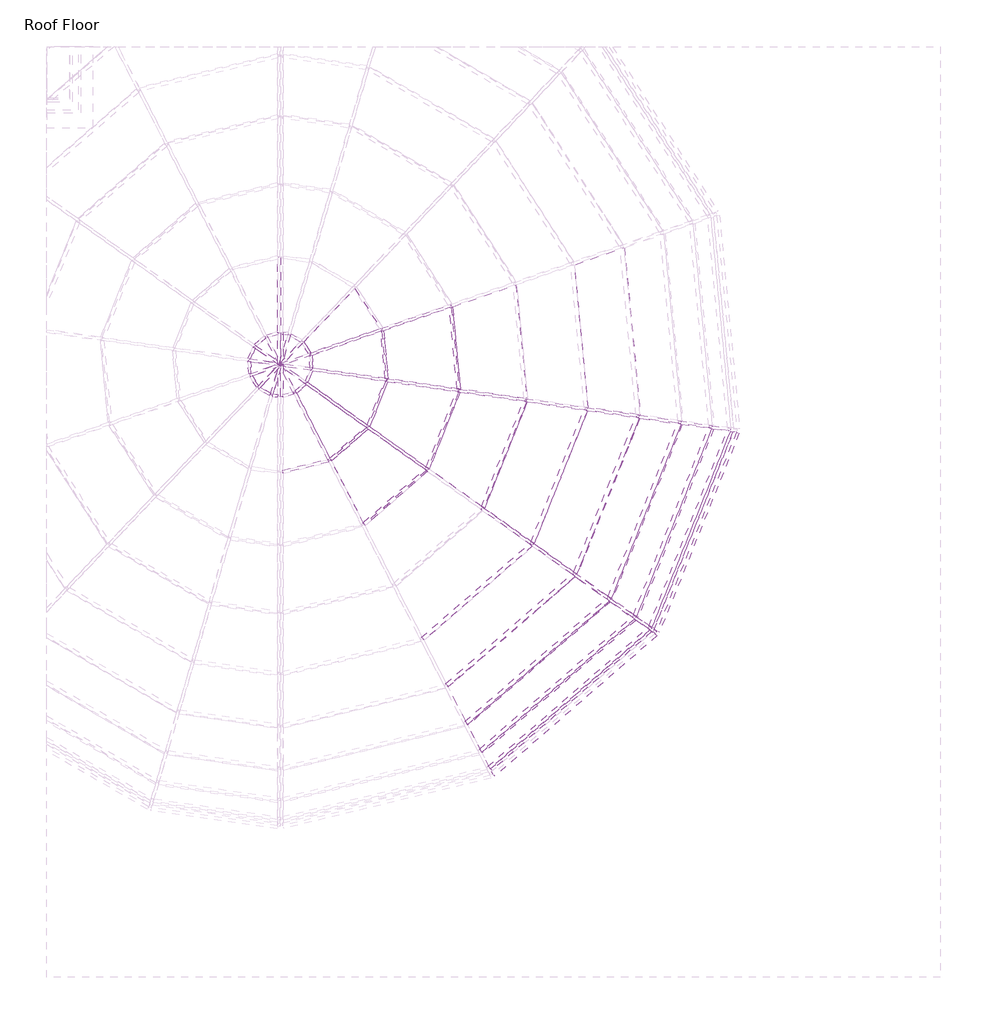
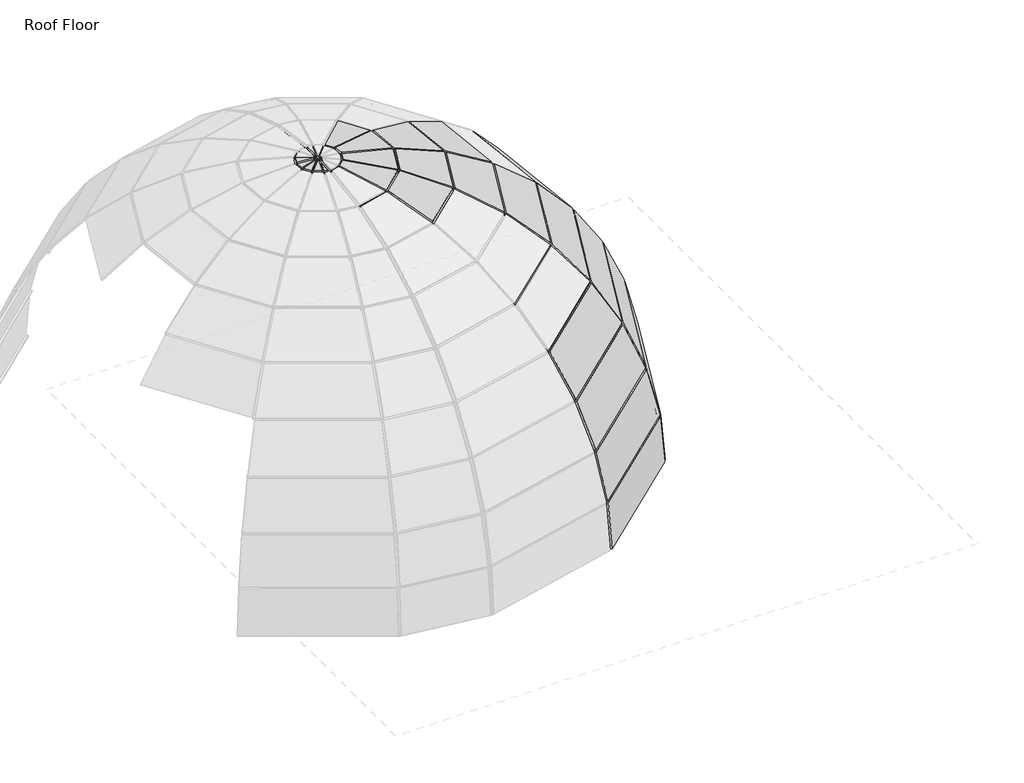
# One storey, part 3 of 5: 68 members, 25 plates.
"""IFC4 building model written with IfcOpenShell, lengths in millimetres."""

from ifc_helpers import new_model, si_unit, origin, place, context, project, spatial, transform, mapped, element, save
from components import member_e5884c93, member_1644e863, member_7f7bd10d, member_27f65fe7, member_ecfbb555, member_3542fcca, member_3534141e, member_2c5cd547, member_c2b6c823, member_dee8aa16, member_df6d12cb, member_6952dcc5, member_16c772f1, member_16816f3b, member_95e271e4, member_8ccf5568, member_1143d828, member_dc070f92, member_d896c3fe, member_fbc4017a, system_panel_glazed_dfb81899, system_panel_glazed_10998a2e, system_panel_glazed_044c179b, system_panel_glazed_0d06b648, system_panel_glazed_0487fba4, system_panel_glazed_bd6fc11e, system_panel_glazed_cc30576f, system_panel_glazed_e8cc6fa0, system_panel_glazed_6841621f, system_panel_glazed_f80f2cad, system_panel_glazed_463f83c8, system_panel_glazed_d9bff1f0, system_panel_glazed_0b4f80da, system_panel_glazed_2c216e95

model = new_model("IFC4")

# Units and contexts
model_context = context("Model", 3, world=origin())
ifc_project = project(units=[si_unit("LENGTHUNIT", "METRE", prefix="MILLI")], contexts=[model_context])

# Site, building, storey
site = spatial("IfcSite", under=ifc_project)
building = spatial("IfcBuilding", under=site)
storey = spatial("IfcBuildingStorey", under=building, Name="Roof Floor", Elevation=15240.0)

# Members
placement = place(None, origin())
member_shape = member_e5884c93(model_context)
element("IfcMember", 1, ObjectType="Rectangular Mullion : 1\" Square", at=placement, inside=storey, context=model_context, shape_type="MappedRepresentation", body=[
    mapped(member_shape, transform((443.8592683, -2777.9023232, 21117.9670279), x_axis=(-0.41239046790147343, 0.4760922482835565, 0.7767047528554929), y_axis=(0.5085307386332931, -0.5870832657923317, 0.6298648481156), z_axis=(0.7558641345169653, 0.6547285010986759, 0.0))),
])
element("IfcMember", 2, ObjectType="Rectangular Mullion : 1\" Square", at=placement, inside=storey, context=model_context, shape_type="MappedRepresentation", body=[
    mapped(member_shape, transform((1078.3289079, -1210.0551724, 21117.9670279), x_axis=(-0.5846780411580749, 0.23426761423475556, 0.7767047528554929), y_axis=(0.7209835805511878, -0.28888224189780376, 0.6298648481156), z_axis=(0.37193314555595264, 0.9282595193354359, 0.0))),
])
member_2_shape = member_1644e863(model_context)
element("IfcMember", 3, ObjectType="Rectangular Mullion : 1\" Square", at=placement, inside=storey, context=model_context, shape_type="MappedRepresentation", body=[
    mapped(member_2_shape, transform((786.0441912, -3021.6914235, 20482.2624164), x_axis=(-0.32116850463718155, 0.370779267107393, 0.8714204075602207), y_axis=(0.5705437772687, -0.6586754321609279, 0.4905369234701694), z_axis=(0.7558641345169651, 0.6547285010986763, 0.0))),
])
element("IfcMember", 4, ObjectType="Rectangular Mullion : 1\" Square", at=placement, inside=storey, context=model_context, shape_type="MappedRepresentation", body=[
    mapped(member_2_shape, transform((1494.1786406, -1269.9938637, 20482.2624164), x_axis=(-0.4553455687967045, 0.1824469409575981, 0.8714204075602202), y_axis=(0.8089042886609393, -0.3241101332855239, 0.49053692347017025), z_axis=(0.3719331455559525, 0.928259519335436, 0.0))),
])
member_3_shape = member_7f7bd10d(model_context)
element("IfcMember", 5, ObjectType="Rectangular Mullion : 1\" Square", at=placement, inside=storey, context=model_context, shape_type="MappedRepresentation", body=[
    mapped(member_3_shape, transform((1200.7999079, -3302.0292875, 19047.3495572), x_axis=(0.5802469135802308, 0.8144406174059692, 0.0), y_axis=(0.7890631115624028, -0.5621667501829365, 0.24768518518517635), z_axis=(0.20172487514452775, -0.1437185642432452, -0.9688405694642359))),
])
element("IfcMember", 6, ObjectType="Rectangular Mullion : 1\" Square", at=placement, inside=storey, context=model_context, shape_type="MappedRepresentation", body=[
    mapped(member_3_shape, transform((1047.085553, -3192.5157415, 19785.6060711), x_axis=(0.5802469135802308, 0.8144406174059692, 0.0), y_axis=(0.744600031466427, -0.5304890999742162, 0.4051568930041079), z_axis=(0.32997623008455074, -0.23509103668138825, -0.9142471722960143))),
])
element("IfcMember", 7, ObjectType="Rectangular Mullion : 1\" Square", at=placement, inside=storey, context=model_context, shape_type="MappedRepresentation", body=[
    mapped(member_3_shape, transform((795.6436657, -3013.3763715, 20482.2624164), x_axis=(0.5802469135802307, 0.8144406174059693, 0.0), y_axis=(0.6794536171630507, -0.48407564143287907, 0.551374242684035), z_axis=(0.4490615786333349, -0.3199332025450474, -0.8342580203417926))),
])
element("IfcMember", 8, ObjectType="Rectangular Mullion : 1\" Square", at=placement, inside=storey, context=model_context, shape_type="MappedRepresentation", body=[
    mapped(member_3_shape, transform((453.4587428, -2769.5872712, 21117.9670279), x_axis=(0.5802469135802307, 0.8144406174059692, 0.0), y_axis=(0.595433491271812, -0.42421563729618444, 0.6822756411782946), z_axis=(0.5556729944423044, -0.3958883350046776, -0.7310950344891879))),
])
element("IfcMember", 9, ObjectType="Rectangular Mullion : 1\" Square", at=placement, inside=storey, context=model_context, shape_type="MappedRepresentation", body=[
    mapped(member_3_shape, transform((30.035921, -2467.9203599, 21675.0614442), x_axis=(0.5802469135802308, 0.814440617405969, 0.0), y_axis=(0.4948735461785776, -0.3525718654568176, 0.7942249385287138), z_axis=(0.6468490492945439, -0.4608465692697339, -0.6076238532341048))),
])
element("IfcMember", 10, ObjectType="Rectangular Mullion : 1\" Square", at=placement, inside=storey, context=model_context, shape_type="MappedRepresentation", body=[
    mapped(member_3_shape, transform((-1011.5465457, -1725.8465996, 22494.1337848), x_axis=(0.5802469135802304, 0.8144406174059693, 0.0), y_axis=(0.25568937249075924, -0.18216548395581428, 0.9494412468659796), z_axis=(0.773263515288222, -0.5509103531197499, -0.313944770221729))),
])
element("IfcMember", 11, ObjectType="Rectangular Mullion : 1\" Square", at=placement, inside=storey, context=model_context, shape_type="MappedRepresentation", body=[
    mapped(member_3_shape, transform((1991.2795692, -1329.1740062, 19047.3495572), x_axis=(0.1426611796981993, 0.989771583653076, 0.0), y_axis=(0.9589308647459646, -0.1382159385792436, 0.24768518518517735), z_axis=(0.24515175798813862, -0.03533506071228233, -0.9688405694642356))),
])
element("IfcMember", 12, ObjectType="Rectangular Mullion : 1\" Square", at=placement, inside=storey, context=model_context, shape_type="MappedRepresentation", body=[
    mapped(member_3_shape, transform((1804.4739296, -1302.24869, 19785.6060711), x_axis=(0.14266117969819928, 0.9897715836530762, 0.0), y_axis=(0.9048958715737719, -0.13042758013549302, 0.40515689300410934), z_axis=(0.4010127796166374, -0.05780016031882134, -0.9142471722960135))),
])
element("IfcMember", 13, ObjectType="Rectangular Mullion : 1\" Square", at=placement, inside=storey, context=model_context, shape_type="MappedRepresentation", body=[
    mapped(member_3_shape, transform((1498.9021915, -1258.2049678, 20482.2624164), x_axis=(0.14266117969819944, 0.9897715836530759, 0.0), y_axis=(0.825724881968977, -0.1190162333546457, 0.5513742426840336), z_axis=(0.5457345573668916, -0.0786596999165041, -0.8342580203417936))),
])
element("IfcMember", 14, ObjectType="Rectangular Mullion : 1\" Square", at=placement, inside=storey, context=model_context, shape_type="MappedRepresentation", body=[
    mapped(member_3_shape, transform((1083.0524588, -1198.2662765, 21117.9670279), x_axis=(0.1426611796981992, 0.9897715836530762, 0.0), y_axis=(0.7236170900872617, -0.10429888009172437, 0.6822756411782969), z_axis=(0.6752970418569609, -0.09733424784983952, -0.731095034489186))),
])
element("IfcMember", 15, ObjectType="Rectangular Mullion : 1\" Square", at=placement, inside=storey, context=model_context, shape_type="MappedRepresentation", body=[
    mapped(member_3_shape, transform((568.4761129, -1124.0975796, 21675.0614442), x_axis=(0.1426611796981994, 0.989771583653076, 0.0), y_axis=(0.6014088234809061, -0.08668433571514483, 0.7942249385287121), z_axis=(0.7861012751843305, -0.11330506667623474, -0.607623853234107))),
])
element("IfcMember", 16, ObjectType="Rectangular Mullion : 1\" Square", at=placement, inside=storey, context=model_context, shape_type="MappedRepresentation", body=[
    mapped(member_3_shape, transform((-30.5330588, -1037.7591188, 22138.0708204), x_axis=(0.14266117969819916, 0.9897715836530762, 0.0), y_axis=(0.4624947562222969, -0.0666618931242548, 0.8841124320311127), z_axis=(0.875069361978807, -0.12612852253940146, -0.4672742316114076))),
])
element("IfcMember", 17, ObjectType="Rectangular Mullion : 1\" Square", at=placement, inside=storey, context=model_context, shape_type="MappedRepresentation", body=[
    mapped(member_3_shape, transform((-697.3359126, -941.6491846, 22494.1337848), x_axis=(0.14266117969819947, 0.989771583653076, 0.0), y_axis=(0.31073361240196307, -0.0447877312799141, 0.9494412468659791), z_axis=(0.9397299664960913, -0.1354484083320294, -0.31394477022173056))),
])
element("IfcMember", 18, ObjectType="Rectangular Mullion : 1\" Square", at=placement, inside=storey, context=model_context, shape_type="MappedRepresentation", body=[
    mapped(member_3_shape, transform((-777.2963246, -100.6377459, 22494.1337848), x_axis=(-0.32662703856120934, 0.9451533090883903, 0.0), y_axis=(0.29672593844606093, 0.10254285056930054, 0.94944124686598), z_axis=(0.897367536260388, 0.31011318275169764, -0.31394477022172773))),
])
member_4_shape = member_27f65fe7(model_context)
element("IfcMember", 19, ObjectType="Rectangular Mullion : 1\" Square", at=placement, inside=storey, context=model_context, shape_type="MappedRepresentation", body=[
    mapped(member_4_shape, transform((-1981.5437131, -1635.875694, 22733.3596998), x_axis=(0.8888888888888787, 0.458122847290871, 0.0), y_axis=(0.06958639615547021, -0.13501744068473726, 0.9883966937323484), z_axis=(0.4528071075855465, -0.8785748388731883, -0.1518946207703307))),
])
element("IfcMember", 20, ObjectType="Rectangular Mullion : 1\" Square", at=placement, inside=storey, context=model_context, shape_type="MappedRepresentation", body=[
    mapped(member_4_shape, transform((-1600.7733444, -1306.0529105, 22733.3596998), x_axis=(0.5802469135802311, 0.8144406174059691, 0.0), y_axis=(0.12370914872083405, -0.08813638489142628, 0.9883966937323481), z_axis=(0.8049904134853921, -0.5735141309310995, -0.1518946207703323))),
])
element("IfcMember", 21, ObjectType="Rectangular Mullion : 1\" Square", at=placement, inside=storey, context=model_context, shape_type="MappedRepresentation", body=[
    mapped(member_4_shape, transform((-1413.4101471, -838.4374975, 22733.3596998), x_axis=(0.14266117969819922, 0.9897715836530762, 0.0), y_axis=(0.15034097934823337, -0.021669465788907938, 0.9883966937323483), z_axis=(0.9782869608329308, -0.1410058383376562, -0.1518946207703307))),
])
element("IfcMember", 22, ObjectType="Rectangular Mullion : 1\" Square", at=placement, inside=storey, context=model_context, shape_type="MappedRepresentation", body=[
    mapped(member_4_shape, transform((-1461.0903872, -336.9439912, 22733.3596998), x_axis=(-0.32662703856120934, 0.9451533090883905, 0.0), y_axis=(0.14356370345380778, 0.04961289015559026, 0.9883966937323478), z_axis=(0.9341864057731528, 0.32283708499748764, -0.15189462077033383))),
])
member_5_shape = member_ecfbb555(model_context)
element("IfcMember", 23, ObjectType="Rectangular Mullion : 1\" Square", at=placement, inside=storey, context=model_context, shape_type="MappedRepresentation", body=[
    mapped(member_5_shape, transform((1037.4860785, -3200.8307935, 19785.6060711), x_axis=(-0.21998759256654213, 0.25396898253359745, 0.9418626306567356), y_axis=(0.61666430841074, -0.711920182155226, 0.3359981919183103), z_axis=(0.7558641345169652, 0.6547285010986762, 0.0))),
])
element("IfcMember", 24, ObjectType="Rectangular Mullion : 1\" Square", at=placement, inside=storey, context=model_context, shape_type="MappedRepresentation", body=[
    mapped(member_5_shape, transform((1799.7503787, -1314.0375859, 19785.6060711), x_axis=(-0.3118935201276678, 0.12496886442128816, 0.9418626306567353), y_axis=(0.8742929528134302, -0.3503099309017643, 0.3359981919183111), z_axis=(0.3719331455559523, 0.928259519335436, 0.0))),
])
member_6_shape = member_3542fcca(model_context)
element("IfcMember", 25, ObjectType="Rectangular Mullion : 1\" Square", at=placement, inside=storey, context=model_context, shape_type="MappedRepresentation", body=[
    mapped(member_6_shape, transform((1191.2004334, -3310.3443394, 19047.3495572), x_axis=(-0.1118037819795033, 0.12907406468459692, 0.9853120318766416), y_axis=(0.6451118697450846, -0.7447620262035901, 0.17076357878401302), z_axis=(0.755864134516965, 0.6547285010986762, 0.0))),
])
element("IfcMember", 26, ObjectType="Rectangular Mullion : 1\" Square", at=placement, inside=storey, context=model_context, shape_type="MappedRepresentation", body=[
    mapped(member_6_shape, transform((1986.5560183, -1340.9629021, 19047.3495572), x_axis=(-0.1585129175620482, 0.0635126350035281, 0.9853120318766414), y_axis=(0.9146252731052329, -0.36647020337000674, 0.17076357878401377), z_axis=(0.37193314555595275, 0.928259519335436, 0.0))),
])
member_7_shape = member_3534141e(model_context)
element("IfcMember", 27, ObjectType="Rectangular Mullion : 1\" Square", at=placement, inside=storey, context=model_context, shape_type="MappedRepresentation", body=[
    mapped(member_7_shape, transform((-2471.1056157, -370.5185398, 22849.1034008), x_axis=(0.9993221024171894, 0.005591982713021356, 0.036387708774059), y_axis=(-0.036814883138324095, 0.15179165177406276, 0.9877266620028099), z_axis=(0.0, -0.9883966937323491, 0.15189462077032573))),
])
member_8_shape = member_2c5cd547(model_context)
element("IfcMember", 28, ObjectType="Rectangular Mullion : 1\" Square", at=placement, inside=storey, context=model_context, shape_type="MappedRepresentation", body=[
    mapped(member_8_shape, transform((-2778.6228692, -629.1922106, 22849.1034008), x_axis=(0.9261696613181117, -0.37109578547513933, 0.0670647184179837), y_axis=(-0.062253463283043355, 0.024943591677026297, 0.9977486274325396), z_axis=(-0.37193314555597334, -0.9282595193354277, 0.0))),
])
element("IfcMember", 29, ObjectType="Rectangular Mullion : 1\" Square", at=placement, inside=storey, context=model_context, shape_type="MappedRepresentation", body=[
    mapped(member_8_shape, transform((-2718.4357175, -494.6219605, 22849.1034008), x_axis=(0.6532544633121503, -0.754162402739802, 0.06706471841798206), y_axis=(-0.04390918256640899, 0.05069181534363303, 0.9977486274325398), z_axis=(-0.7558641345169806, -0.6547285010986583, 0.0))),
])
element("IfcMember", 30, ObjectType="Rectangular Mullion : 1\" Square", at=placement, inside=storey, context=model_context, shape_type="MappedRepresentation", body=[
    mapped(member_8_shape, transform((-2571.1893455, -982.2556366, 22849.1034008), x_axis=(0.4994285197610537, 0.863755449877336, 0.06706471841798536), y_axis=(-0.03356961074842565, -0.05805822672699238, 0.9977486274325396), z_axis=(0.865704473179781, -0.5005554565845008, 0.0))),
])
element("IfcMember", 31, ObjectType="Rectangular Mullion : 1\" Square", at=placement, inside=storey, context=model_context, shape_type="MappedRepresentation", body=[
    mapped(member_8_shape, transform((-2695.796785, -903.4861534, 22849.1034008), x_axis=(0.83964256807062, 0.5389830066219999, 0.06706471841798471), y_axis=(-0.0564374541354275, -0.03622830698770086, 0.9977486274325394), z_axis=(0.5401991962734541, -0.841537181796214, 0.0))),
])
element("IfcMember", 32, ObjectType="Rectangular Mullion : 1\" Square", at=placement, inside=storey, context=model_context, shape_type="MappedRepresentation", body=[
    mapped(member_8_shape, transform((-2770.4728536, -776.38332, 22849.1034008), x_axis=(0.9932693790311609, 0.0944365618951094, 0.06706471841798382), y_axis=(-0.06676364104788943, -0.006347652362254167, 0.9977486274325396), z_axis=(0.09464965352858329, -0.9955106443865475, 0.0))),
])
element("IfcMember", 33, ObjectType="Rectangular Mullion : 1\" Square", at=placement, inside=storey, context=model_context, shape_type="MappedRepresentation", body=[
    mapped(member_8_shape, transform((-2223.7755139, -877.3501947, 22849.1034008), x_axis=(-0.6532544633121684, 0.7541624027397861, 0.0670647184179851), y_axis=(0.043909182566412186, -0.05069181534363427, 0.9977486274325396), z_axis=(0.7558641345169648, 0.6547285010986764, 0.0))),
])
element("IfcMember", 34, ObjectType="Rectangular Mullion : 1\" Square", at=placement, inside=storey, context=model_context, shape_type="MappedRepresentation", body=[
    mapped(member_8_shape, transform((-2163.5883622, -742.7799446, 22849.1034008), x_axis=(-0.9261696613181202, 0.37109578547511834, 0.06706471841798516), y_axis=(0.06225346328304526, -0.02494359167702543, 0.9977486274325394), z_axis=(0.3719331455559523, 0.928259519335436, 0.0))),
])
element("IfcMember", 35, ObjectType="Rectangular Mullion : 1\" Square", at=placement, inside=storey, context=model_context, shape_type="MappedRepresentation", body=[
    mapped(member_8_shape, transform((-2171.7383778, -595.5888351, 22849.1034008), x_axis=(-0.9932693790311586, -0.09443656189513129, 0.06706471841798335), y_axis=(0.06676364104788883, 0.006347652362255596, 0.9977486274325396), z_axis=(-0.09464965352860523, 0.9955106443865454, 0.0))),
])
element("IfcMember", 36, ObjectType="Rectangular Mullion : 1\" Square", at=placement, inside=storey, context=model_context, shape_type="MappedRepresentation", body=[
    mapped(member_8_shape, transform((-2246.4144464, -468.4860018, 22849.1034008), x_axis=(-0.8396425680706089, -0.5389830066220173, 0.06706471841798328), y_axis=(0.05643745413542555, 0.036228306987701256, 0.9977486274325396), z_axis=(-0.5401991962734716, 0.8415371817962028, 0.0))),
])
element("IfcMember", 37, ObjectType="Rectangular Mullion : 1\" Square", at=placement, inside=storey, context=model_context, shape_type="MappedRepresentation", body=[
    mapped(member_8_shape, transform((-2371.0218859, -389.7165186, 22849.1034008), x_axis=(-0.49942851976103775, -0.8637554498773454, 0.06706471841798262), y_axis=(0.03356961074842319, 0.05805822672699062, 0.9977486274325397), z_axis=(-0.86570447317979, 0.5005554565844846, 0.0))),
])
member_9_shape = member_c2b6c823(model_context)
element("IfcMember", 38, ObjectType="Rectangular Mullion : 1\" Square", at=placement, inside=storey, context=model_context, shape_type="MappedRepresentation", body=[
    mapped(member_9_shape, transform((-2603.2863208, -402.5770697, 22849.1034008), x_axis=(0.23517160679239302, -0.9696373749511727, 0.06706471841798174), y_axis=(-0.015807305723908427, 0.0651751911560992, 0.9977486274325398), z_axis=(-0.9718253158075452, -0.2357022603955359, 0.0))),
])
element("IfcMember", 39, ObjectType="Rectangular Mullion : 1\" Square", at=placement, inside=storey, context=model_context, shape_type="MappedRepresentation", body=[
    mapped(member_9_shape, transform((-2338.9249106, -969.3950855, 22849.1034008), x_axis=(-0.23517160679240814, 0.9696373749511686, 0.06706471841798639), y_axis=(0.015807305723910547, -0.06517519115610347, 0.9977486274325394), z_axis=(0.9718253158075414, 0.23570226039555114, 0.0))),
])
member_10_shape = member_dee8aa16(model_context)
element("IfcMember", 40, ObjectType="Rectangular Mullion : 1\" Square", at=placement, inside=storey, context=model_context, shape_type="MappedRepresentation", body=[
    mapped(member_10_shape, transform((-1610.3728189, -1314.3679625, 22733.3596998), x_axis=(-0.6375613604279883, 0.7360451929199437, 0.22749282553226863), y_axis=(0.14894603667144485, -0.1719536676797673, 0.9737797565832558), z_axis=(0.7558641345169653, 0.6547285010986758, 0.0))),
])
element("IfcMember", 41, ObjectType="Rectangular Mullion : 1\" Square", at=placement, inside=storey, context=model_context, shape_type="MappedRepresentation", body=[
    mapped(member_10_shape, transform((-1418.133698, -850.2263934, 22733.3596998), x_axis=(-0.9039203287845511, 0.3621809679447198, 0.2274928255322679), y_axis=(0.21117238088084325, -0.08461212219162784, 0.973779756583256), z_axis=(0.3719331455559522, 0.9282595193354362, 0.0))),
])
element("IfcMember", 42, ObjectType="Rectangular Mullion : 1\" Square", at=placement, inside=storey, context=model_context, shape_type="MappedRepresentation", body=[
    mapped(member_10_shape, transform((-1459.8883366, -349.5869764, 22733.3596998), x_axis=(-0.9694081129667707, -0.09216791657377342, 0.22749282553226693), y_axis=(0.22647152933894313, 0.021532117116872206, 0.9737797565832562), z_axis=(-0.09464965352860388, 0.9955106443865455, 0.0))),
])
member_11_shape = member_df6d12cb(model_context)
element("IfcMember", 43, ObjectType="Rectangular Mullion : 1\" Square", at=placement, inside=storey, context=model_context, shape_type="MappedRepresentation", body=[
    mapped(member_11_shape, transform((-1993.8858946, -1638.8691127, 22733.3596998), x_axis=(-0.2295220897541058, 0.9463438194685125, 0.22749282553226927), y_axis=(0.053620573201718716, -0.22108328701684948, 0.9737797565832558), z_axis=(0.9718253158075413, 0.23570226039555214, 0.0))),
])
member_12_shape = member_6952dcc5(model_context)
element("IfcMember", 44, ObjectType="Rectangular Mullion : 1\" Square", at=placement, inside=storey, context=model_context, shape_type="MappedRepresentation", body=[
    mapped(member_12_shape, transform((1257.240438, -3327.0860706, 18288.0), x_axis=(0.07519001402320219, -0.030126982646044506, -0.9967140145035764), y_axis=(0.9252092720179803, -0.3707109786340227, 0.08100106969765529), z_axis=(-0.3719331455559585, -0.9282595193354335, 0.0))),
])
member_13_shape = member_16c772f1(model_context)
element("IfcMember", 45, ObjectType="Rectangular Mullion : 1\" Square", at=placement, inside=storey, context=model_context, shape_type="MappedRepresentation", body=[
    mapped(member_13_shape, transform((-1021.1460202, -1734.1616515, 22494.1337848), x_axis=(-0.6049222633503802, 0.6983643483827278, 0.3825654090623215), y_axis=(0.250476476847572, -0.28916747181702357, 0.923928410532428), z_axis=(0.7558641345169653, 0.6547285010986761, 0.0))),
])
element("IfcMember", 46, ObjectType="Rectangular Mullion : 1\" Square", at=placement, inside=storey, context=model_context, shape_type="MappedRepresentation", body=[
    mapped(member_13_shape, transform((-702.0594635, -953.4380805, 22494.1337848), x_axis=(-0.8576453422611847, 0.3436395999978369, 0.3825654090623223), y_axis=(0.3551199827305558, -0.1422887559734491, 0.9239284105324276), z_axis=(0.37193314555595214, 0.9282595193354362, 0.0))),
])
element("IfcMember", 47, ObjectType="Rectangular Mullion : 1\" Square", at=placement, inside=storey, context=model_context, shape_type="MappedRepresentation", body=[
    mapped(member_13_shape, transform((-776.094274, -113.2807311, 22494.1337848), x_axis=(-0.9197805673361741, -0.08744950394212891, 0.38256540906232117), y_axis=(0.38084793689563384, 0.036209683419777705, 0.9239284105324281), z_axis=(-0.09464965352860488, 0.9955106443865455, 0.0))),
])
member_14_shape = member_16816f3b(model_context)
element("IfcMember", 48, ObjectType="Rectangular Mullion : 1\" Square", at=placement, inside=storey, context=model_context, shape_type="MappedRepresentation", body=[
    mapped(member_14_shape, transform((-35.2566097, -1049.5480147, 22138.0708204), x_axis=(-0.7880786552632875, 0.31576576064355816, 0.5284165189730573), y_axis=(0.49050766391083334, -0.19653561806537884, 0.8489852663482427), z_axis=(0.3719331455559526, 0.928259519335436, 0.0))),
])
member_15_shape = member_95e271e4(model_context)
element("IfcMember", 49, ObjectType="Rectangular Mullion : 1\" Square", at=placement, inside=storey, context=model_context, shape_type="MappedRepresentation", body=[
    mapped(member_15_shape, transform((20.4364465, -2476.2354119, 21675.0614442), x_axis=(-0.49123616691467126, 0.567117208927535, 0.6611089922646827), y_axis=(0.4328468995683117, -0.49970857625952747, 0.7502898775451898), z_axis=(0.7558641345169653, 0.6547285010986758, 0.0))),
])
element("IfcMember", 50, ObjectType="Rectangular Mullion : 1\" Square", at=placement, inside=storey, context=model_context, shape_type="MappedRepresentation", body=[
    mapped(member_15_shape, transform((563.752562, -1135.8864755, 21675.0614442), x_axis=(-0.6964637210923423, 0.2790576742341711, 0.661108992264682), y_axis=(0.6136807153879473, -0.245888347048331, 0.7502898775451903), z_axis=(0.3719331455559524, 0.9282595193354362, 0.0))),
])
member_16_shape = member_8ccf5568(model_context)
element("IfcMember", 51, ObjectType="Rectangular Mullion : 1\" Square", at=placement, inside=storey, context=model_context, shape_type="MappedRepresentation", body=[
    mapped(member_16_shape, transform((1252.5168871, -3338.8749665, 18288.0), x_axis=(0.5802469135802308, 0.8144406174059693, 0.0), y_axis=(0.8116077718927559, -0.578228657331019, 0.0833333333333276), z_axis=(0.06787005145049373, -0.04835390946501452, -0.9965217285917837))),
])
member_17_shape = member_1143d828(model_context)
element("IfcMember", 52, ObjectType="Rectangular Mullion : 1\" Square", at=placement, inside=storey, context=model_context, shape_type="MappedRepresentation", body=[
    mapped(member_17_shape, transform((-2496.2458139, -997.8300214, 22849.1034008), x_axis=(0.1423280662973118, 0.9874604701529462, 0.06829744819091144), y_axis=(-0.00974339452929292, -0.06759887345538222, 0.9976650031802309), z_axis=(0.9897715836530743, -0.14266117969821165, 0.0))),
])
element("IfcMember", 53, ObjectType="Rectangular Mullion : 1\" Square", at=placement, inside=storey, context=model_context, shape_type="MappedRepresentation", body=[
    mapped(member_17_shape, transform((-2445.9654175, -374.1421337, 22849.1034008), x_axis=(-0.14232806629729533, -0.9874604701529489, 0.06829744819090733), y_axis=(0.009743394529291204, 0.06759887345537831, 0.9976650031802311), z_axis=(-0.9897715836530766, 0.1426611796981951, 0.0))),
])
member_18_shape = member_dc070f92(model_context)
element("IfcMember", 54, ObjectType="Rectangular Mullion : 1\" Square", at=placement, inside=storey, context=model_context, shape_type="MappedRepresentation", body=[
    mapped(member_18_shape, transform((-2615.6285023, -405.5704884, 22849.1034008), x_axis=(-0.888888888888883, -0.458122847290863, 0.0), y_axis=(-0.015941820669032, 0.030931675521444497, 0.9993943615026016), z_axis=(-0.45784539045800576, 0.8883505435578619, -0.03479813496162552))),
])
element("IfcMember", 55, ObjectType="Rectangular Mullion : 1\" Square", at=placement, inside=storey, context=model_context, shape_type="MappedRepresentation", body=[
    mapped(member_18_shape, transform((-2728.035192, -502.9370124, 22849.1034008), x_axis=(-0.5802469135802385, -0.8144406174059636, 0.0), y_axis=(-0.028341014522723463, 0.020191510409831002, 0.9993943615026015), z_axis=(-0.8139473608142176, 0.5798954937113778, -0.034798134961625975))),
])
element("IfcMember", 56, ObjectType="Rectangular Mullion : 1\" Square", at=placement, inside=storey, context=model_context, shape_type="MappedRepresentation", body=[
    mapped(member_18_shape, transform((-2783.3464202, -640.9811065, 22849.1034008), x_axis=(-0.14266117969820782, -0.9897715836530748, 0.0), y_axis=(-0.03444220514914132, 0.004964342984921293, 0.9993943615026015), z_axis=(-0.9891721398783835, 0.14257477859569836, -0.034798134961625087))),
])
element("IfcMember", 57, ObjectType="Rectangular Mullion : 1\" Square", at=placement, inside=storey, context=model_context, shape_type="MappedRepresentation", body=[
    mapped(member_18_shape, transform((-2326.582729, -966.4016667, 22849.1034008), x_axis=(0.8888888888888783, 0.45812284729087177, 0.0), y_axis=(0.01594182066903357, -0.030931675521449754, 0.9993943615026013), z_axis=(0.45784539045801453, -0.8883505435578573, -0.034798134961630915))),
])
element("IfcMember", 58, ObjectType="Rectangular Mullion : 1\" Square", at=placement, inside=storey, context=model_context, shape_type="MappedRepresentation", body=[
    mapped(member_18_shape, transform((-2214.1760394, -869.0351427, 22849.1034008), x_axis=(0.5802469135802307, 0.8144406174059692, 0.0), y_axis=(0.028341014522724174, -0.020191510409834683, 0.9993943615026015), z_axis=(0.8139473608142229, -0.5798954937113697, -0.03479813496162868))),
])
element("IfcMember", 59, ObjectType="Rectangular Mullion : 1\" Square", at=placement, inside=storey, context=model_context, shape_type="MappedRepresentation", body=[
    mapped(member_18_shape, transform((-2158.8648112, -730.9910487, 22849.1034008), x_axis=(0.1426611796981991, 0.9897715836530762, 0.0), y_axis=(0.034442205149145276, -0.004964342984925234, 0.9993943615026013), z_axis=(0.9891721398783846, -0.14257477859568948, -0.03479813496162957))),
])
element("IfcMember", 60, ObjectType="Rectangular Mullion : 1\" Square", at=placement, inside=storey, context=model_context, shape_type="MappedRepresentation", body=[
    mapped(member_18_shape, transform((-2172.9404284, -582.9458499, 22849.1034008), x_axis=(-0.32662703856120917, 0.9451533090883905, 0.0), y_axis=(0.03288957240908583, 0.011366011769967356, 0.9993943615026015), z_axis=(0.9445808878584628, 0.32642922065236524, -0.034798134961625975))),
])
element("IfcMember", 61, ObjectType="Rectangular Mullion : 1\" Square", at=placement, inside=storey, context=model_context, shape_type="MappedRepresentation", body=[
    mapped(member_18_shape, transform((-2253.2749761, -457.7984796, 22849.1034008), x_axis=(-0.7233314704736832, 0.6905009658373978, 0.0), y_axis=(0.024028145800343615, 0.025170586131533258, 0.9993943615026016), z_axis=(0.6900827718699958, 0.7228933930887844, -0.03479813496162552))),
])
element("IfcMember", 62, ObjectType="Rectangular Mullion : 1\" Square", at=placement, inside=storey, context=model_context, shape_type="MappedRepresentation", body=[
    mapped(member_18_shape, transform((-2382.0163327, -383.3594643, 22849.1034008), x_axis=(-0.9592955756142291, 0.28240396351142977, 0.0), y_axis=(0.009827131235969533, 0.0333816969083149, 0.9993943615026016), z_axis=(0.2822329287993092, 0.9587145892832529, -0.03479813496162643))),
])
member_19_shape = member_d896c3fe(model_context)
element("IfcMember", 63, ObjectType="Rectangular Mullion : 1\" Square", at=placement, inside=storey, context=model_context, shape_type="MappedRepresentation", body=[
    mapped(member_19_shape, transform((-2471.1056157, -683.4460776, 22859.9992944), x_axis=(0.9999649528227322, 0.00029133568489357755, 0.008367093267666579), y_axis=(-0.008372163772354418, 0.03479691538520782, 0.9993593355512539), z_axis=(0.0, -0.9993943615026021, 0.0347981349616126))),
])
element("IfcMember", 64, ObjectType="Rectangular Mullion : 1\" Square", at=placement, inside=storey, context=model_context, shape_type="MappedRepresentation", body=[
    mapped(member_19_shape, transform((-2471.1056157, -688.5260776, 22859.9992944), x_axis=(-0.9999649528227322, -0.00029133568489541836, 0.00836709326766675), y_axis=(0.008372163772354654, -0.034796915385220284, 0.9993593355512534), z_axis=(0.0, 0.9993943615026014, 0.03479813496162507))),
])
element("IfcMember", 65, ObjectType="Rectangular Mullion : 1\" Square", at=placement, inside=storey, context=model_context, shape_type="MappedRepresentation", body=[
    mapped(member_18_shape, transform((-2769.270803, -789.0263052, 22849.1034008), x_axis=(0.3266270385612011, -0.9451533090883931, 0.0), y_axis=(-0.0328895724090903, -0.011366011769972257, 0.9993943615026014), z_axis=(-0.9445808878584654, -0.326429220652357, -0.0347981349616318))),
])
element("IfcMember", 66, ObjectType="Rectangular Mullion : 1\" Square", at=placement, inside=storey, context=model_context, shape_type="MappedRepresentation", body=[
    mapped(member_18_shape, transform((-2688.9362552, -914.1736756, 22849.1034008), x_axis=(0.7233314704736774, -0.6905009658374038, 0.0), y_axis=(-0.024028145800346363, -0.025170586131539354, 0.9993943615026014), z_axis=(-0.6900827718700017, -0.7228933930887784, -0.034798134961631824))),
])
element("IfcMember", 67, ObjectType="Rectangular Mullion : 1\" Square", at=placement, inside=storey, context=model_context, shape_type="MappedRepresentation", body=[
    mapped(member_18_shape, transform((-2560.1948987, -988.6126908, 22849.1034008), x_axis=(0.9592955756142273, -0.28240396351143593, 0.0), y_axis=(-0.009827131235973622, -0.03338169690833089, 0.9993943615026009), z_axis=(-0.2822329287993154, -0.9587145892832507, -0.03479813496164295))),
])
member_20_shape = member_fbc4017a(model_context)
element("IfcMember", 68, ObjectType="Rectangular Mullion : 1\" Square", at=placement, inside=storey, context=model_context, shape_type="MappedRepresentation", body=[
    mapped(member_20_shape, transform((-2471.1056157, -370.5185398, 22849.1034008), x_axis=(-0.9999876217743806, 0.00017314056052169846, 0.004972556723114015), y_axis=(0.004975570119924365, 0.03479770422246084, 0.999381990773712), z_axis=(0.0, 0.9993943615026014, -0.03479813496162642))),
])

# Plates
system_panel_glazed_shape = system_panel_glazed_dfb81899(model_context)
element("IfcPlate", 69, ObjectType="System Panel : Glazed", at=placement, inside=storey, context=model_context, shape_type="MappedRepresentation", body=[
    mapped(system_panel_glazed_shape, transform((436.6274084, -4042.8753866, 18313.316536), x_axis=(0.7558641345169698, 0.654728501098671, 0.0), y_axis=(-0.6525770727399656, 0.7533803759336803, -0.08100106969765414), z_axis=(-0.05303370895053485, 0.06122580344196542, 0.9967140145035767))),
])
element("IfcPlate", 70, ObjectType="System Panel : Glazed", at=placement, inside=storey, context=model_context, shape_type="MappedRepresentation", body=[
    mapped(system_panel_glazed_shape, transform((1651.4136496, -2337.7887535, 18313.316536), x_axis=(0.37193314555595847, 0.9282595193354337, 0.0), y_axis=(-0.9252092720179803, 0.3707109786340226, -0.08100106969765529), z_axis=(-0.07519001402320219, 0.030126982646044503, 0.9967140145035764))),
])
system_panel_glazed_2_shape = system_panel_glazed_10998a2e(model_context)
element("IfcPlate", 71, ObjectType="System Panel : Glazed", at=placement, inside=storey, context=model_context, shape_type="MappedRepresentation", body=[
    mapped(system_panel_glazed_2_shape, transform((395.5656661, -3995.4708544, 19059.674854), x_axis=(0.7558641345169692, 0.6547285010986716, 0.0), y_axis=(-0.6354112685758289, 0.7335629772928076, -0.24111797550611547), z_axis=(-0.15786681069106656, 0.18225242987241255, 0.970495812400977))),
])
element("IfcPlate", 72, ObjectType="System Panel : Glazed", at=placement, inside=storey, context=model_context, shape_type="MappedRepresentation", body=[
    mapped(system_panel_glazed_2_shape, transform((1593.1972238, -2314.4627138, 19059.674854), x_axis=(0.3719331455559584, 0.9282595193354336, 0.0), y_axis=(-0.9008719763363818, 0.3609595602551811, -0.24111797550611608), z_axis=(-0.22382005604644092, 0.08967976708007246, 0.9704958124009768))),
])
system_panel_glazed_3_shape = system_panel_glazed_044c179b(model_context)
element("IfcPlate", 73, ObjectType="System Panel : Glazed", at=placement, inside=storey, context=model_context, shape_type="MappedRepresentation", body=[
    mapped(system_panel_glazed_3_shape, transform((274.1922204, -3855.3489042, 19797.2703184), x_axis=(0.7558641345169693, 0.6547285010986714, 0.0), y_axis=(-0.6013319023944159, 0.6942193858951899, -0.3955494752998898), z_axis=(-0.2589775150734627, 0.29898166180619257, 0.9184446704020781))),
])
element("IfcPlate", 74, ObjectType="System Panel : Glazed", at=placement, inside=storey, context=model_context, shape_type="MappedRepresentation", body=[
    mapped(system_panel_glazed_3_shape, transform((1421.1166497, -2245.5138176, 19797.2703184), x_axis=(0.3719331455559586, 0.9282595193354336, 0.0), y_axis=(-0.8525550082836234, 0.3416000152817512, -0.39554947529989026), z_axis=(-0.36717256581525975, 0.14711796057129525, 0.9184446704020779))),
])
system_panel_glazed_4_shape = system_panel_glazed_0d06b648(model_context)
element("IfcPlate", 75, ObjectType="System Panel : Glazed", at=placement, inside=storey, context=model_context, shape_type="MappedRepresentation", body=[
    mapped(system_panel_glazed_4_shape, transform((76.5486179, -3627.1753784, 20492.9481164), x_axis=(0.7558641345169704, 0.6547285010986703, 0.0), y_axis=(-0.5508844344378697, 0.6359793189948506, -0.5404226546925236), z_axis=(-0.3538301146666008, 0.40848610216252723, 0.8413936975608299))),
])
element("IfcPlate", 76, ObjectType="System Panel : Glazed", at=placement, inside=storey, context=model_context, shape_type="MappedRepresentation", body=[
    mapped(system_panel_glazed_4_shape, transform((1140.9019422, -2133.2379557, 20492.9481164), x_axis=(0.37193314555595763, 0.9282595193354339, 0.0), y_axis=(-0.7810317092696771, 0.31294220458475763, -0.5404226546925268), z_axis=(-0.5016524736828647, 0.2010010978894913, 0.8413936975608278))),
])
system_panel_glazed_5_shape = system_panel_glazed_0487fba4(model_context)
element("IfcPlate", 77, ObjectType="System Panel : Glazed", at=placement, inside=storey, context=model_context, shape_type="MappedRepresentation", body=[
    mapped(system_panel_glazed_5_shape, transform((760.3358637, -1980.7535096, 21127.3743739), x_axis=(0.37193314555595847, 0.9282595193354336, 0.0), y_axis=(-0.6875951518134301, 0.2755042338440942, -0.6717963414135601), z_axis=(-0.6236013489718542, 0.24986332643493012, 0.7407359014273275))),
])
element("IfcPlate", 78, ObjectType="System Panel : Glazed", at=placement, inside=storey, context=model_context, shape_type="MappedRepresentation", body=[
    mapped(system_panel_glazed_5_shape, transform((994.4493529, -356.4932902, 21127.3743739), x_axis=(-0.09464965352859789, 0.9955106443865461, 0.0), y_axis=(-0.7374104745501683, -0.07011039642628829, -0.67179634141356), z_axis=(-0.6687804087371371, -0.06358529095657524, 0.7407359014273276))),
])
system_panel_glazed_6_shape = system_panel_glazed_bd6fc11e(model_context)
element("IfcPlate", 79, ObjectType="System Panel : Glazed", at=placement, inside=storey, context=model_context, shape_type="MappedRepresentation", body=[
    mapped(system_panel_glazed_6_shape, transform((289.9930286, -1792.2974943, 21682.9171425), x_axis=(0.3719331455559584, 0.9282595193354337, 0.0), y_axis=(-0.5741832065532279, 0.2300625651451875, -0.7857384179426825), z_axis=(-0.7293691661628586, 0.2922421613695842, 0.6185589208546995))),
])
system_panel_glazed_7_shape = system_panel_glazed_cc30576f(model_context)
element("IfcPlate", 80, ObjectType="System Panel : Glazed", at=placement, inside=storey, context=model_context, shape_type="MappedRepresentation", body=[
    mapped(system_panel_glazed_7_shape, transform((-257.0544702, -1573.1076096, 22144.1384086), x_axis=(0.37193314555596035, 0.9282595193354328, 0.0), y_axis=(-0.443487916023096, 0.17769584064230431, -0.8784888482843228), z_axis=(-0.8154656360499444, 0.32673912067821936, 0.47776285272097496))),
])
element("IfcPlate", 81, ObjectType="System Panel : Glazed", at=placement, inside=storey, context=model_context, shape_type="MappedRepresentation", body=[
    mapped(system_panel_glazed_7_shape, transform((-96.6495109, -460.2311357, 22144.1384086), x_axis=(-0.09464965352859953, 0.9955106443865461, 0.0), y_axis=(-0.47561800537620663, -0.04522008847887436, -0.878488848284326), z_axis=(-0.874544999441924, -0.08314866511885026, 0.4777628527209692))),
])
system_panel_glazed_8_shape = system_panel_glazed_e8cc6fa0(model_context)
element("IfcPlate", 82, ObjectType="System Panel : Glazed", at=placement, inside=storey, context=model_context, shape_type="MappedRepresentation", body=[
    mapped(system_panel_glazed_8_shape, transform((-1338.6969591, -1993.3174183, 22498.2246338), x_axis=(0.7558641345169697, 0.6547285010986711, 0.0), y_axis=(-0.21089727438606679, 0.24347448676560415, -0.9467008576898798), z_axis=(-0.6198320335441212, 0.7155772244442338, 0.32211408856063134))),
])
element("IfcPlate", 83, ObjectType="System Panel : Glazed", at=placement, inside=storey, context=model_context, shape_type="MappedRepresentation", body=[
    mapped(system_panel_glazed_8_shape, transform((-865.601787, -1329.2761024, 22498.2246338), x_axis=(0.37193314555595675, 0.9282595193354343, 0.0), y_axis=(-0.29900546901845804, 0.11980490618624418, -0.9467008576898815), z_axis=(-0.8787840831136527, 0.3521094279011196, 0.322114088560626))),
])
element("IfcPlate", 84, ObjectType="System Panel : Glazed", at=placement, inside=storey, context=model_context, shape_type="MappedRepresentation", body=[
    mapped(system_panel_glazed_8_shape, transform((-749.2852435, -522.2814476, 22498.2246338), x_axis=(-0.09464965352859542, 0.9955106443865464, 0.0), y_axis=(-0.3206680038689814, -0.030487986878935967, -0.9467008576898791), z_axis=(-0.9424507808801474, -0.08960490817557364, 0.3221140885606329))),
])
system_panel_glazed_9_shape = system_panel_glazed_6841621f(model_context)
element("IfcPlate", 85, ObjectType="System Panel : Glazed", at=placement, inside=storey, context=model_context, shape_type="MappedRepresentation", body=[
    mapped(system_panel_glazed_9_shape, transform((-1799.3715272, -1461.4826453, 22735.3433422), x_axis=(0.7558641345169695, 0.6547285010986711, 0.0), y_axis=(-0.10226356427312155, 0.11806017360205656, -0.9877266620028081), z_axis=(-0.6466927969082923, 0.7465871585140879, 0.15619232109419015))),
])
element("IfcPlate", 86, ObjectType="System Panel : Glazed", at=placement, inside=storey, context=model_context, shape_type="MappedRepresentation", body=[
    mapped(system_panel_glazed_9_shape, transform((-1518.7359525, -1067.5796268, 22735.3433422), x_axis=(0.3719331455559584, 0.9282595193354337, 0.0), y_axis=(-0.14498700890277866, 0.05809310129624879, -0.987726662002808), z_axis=(-0.916866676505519, 0.3673682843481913, 0.15619232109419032))),
])
element("IfcPlate", 87, ObjectType="System Panel : Glazed", at=placement, inside=storey, context=model_context, shape_type="MappedRepresentation", body=[
    mapped(system_panel_glazed_9_shape, transform((-1449.7380807, -588.8780418, 22735.3433422), x_axis=(-0.09464965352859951, 0.995510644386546, 0.0), y_axis=(-0.15549111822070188, -0.014783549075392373, -0.9877266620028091), z_axis=(-0.9832924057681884, -0.09348798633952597, 0.15619232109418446))),
])
element("IfcPlate", 88, ObjectType="System Panel : Glazed", at=placement, inside=storey, context=model_context, shape_type="MappedRepresentation", body=[
    mapped(system_panel_glazed_9_shape, transform((-1607.7107722, -131.7560202, 22735.3433422), x_axis=(-0.5401991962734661, 0.8415371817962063, 0.0), y_axis=(-0.13144164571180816, -0.08437496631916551, -0.9877266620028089), z_axis=(-0.831208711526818, -0.533569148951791, 0.15619232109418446))),
])
system_panel_glazed_10_shape = system_panel_glazed_f80f2cad(model_context)
element("IfcPlate", 89, ObjectType="System Panel : Glazed", at=placement, inside=storey, context=model_context, shape_type="MappedRepresentation", body=[
    mapped(system_panel_glazed_10_shape, transform((-2643.3386245, -666.0007133, 22854.0533774), x_axis=(0.9994562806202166, 0.0004358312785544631, 0.03296897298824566), y_axis=(0.032971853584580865, -0.013211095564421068, -0.9993689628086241), z_axis=(0.0, 0.9999126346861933, -0.013218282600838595))),
])
system_panel_glazed_11_shape = system_panel_glazed_463f83c8(model_context)
element("IfcPlate", 90, ObjectType="System Panel : Glazed", at=placement, inside=storey, context=model_context, shape_type="MappedRepresentation", body=[
    mapped(system_panel_glazed_11_shape, transform((-2646.9619988, -771.7647802, 22853.489116), x_axis=(0.9993746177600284, -0.00011895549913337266, 0.03536041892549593), y_axis=(0.03536061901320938, 0.003361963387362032, -0.9993689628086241), z_axis=(0.0, 0.9999943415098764, 0.0033640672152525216))),
])
system_panel_glazed_12_shape = system_panel_glazed_d9bff1f0(model_context)
element("IfcPlate", 91, ObjectType="System Panel : Glazed", at=placement, inside=storey, context=model_context, shape_type="MappedRepresentation", body=[
    mapped(system_panel_glazed_12_shape, transform((-2633.1565754, -893.7609511, 22851.1637152), x_axis=(0.9995531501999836, -0.0005738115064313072, 0.02988596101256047), y_axis=(0.02989146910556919, 0.01918791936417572, -0.999368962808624), z_axis=(0.0, 0.9998157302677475, 0.019196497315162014))),
])
system_panel_glazed_13_shape = system_panel_glazed_0b4f80da(model_context)
element("IfcPlate", 92, ObjectType="System Panel : Glazed", at=placement, inside=storey, context=model_context, shape_type="MappedRepresentation", body=[
    mapped(system_panel_glazed_13_shape, transform((-2583.3398276, -969.5347484, 22849.2786445), x_axis=(0.9998419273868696, -0.0005468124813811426, 0.017771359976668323), y_axis=(0.01777977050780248, 0.030749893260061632, -0.999368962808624), z_axis=(0.0, 0.9995269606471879, 0.030754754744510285))),
])
system_panel_glazed_14_shape = system_panel_glazed_2c216e95(model_context)
element("IfcPlate", 93, ObjectType="System Panel : Glazed", at=placement, inside=storey, context=model_context, shape_type="MappedRepresentation", body=[
    mapped(system_panel_glazed_14_shape, transform((-2520.1893667, -984.9651184, 22849.4285635), x_axis=(0.9999876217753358, -0.00017175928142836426, 0.004972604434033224), y_axis=(0.00497556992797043, 0.03452009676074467, -0.9993916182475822), z_axis=(0.0, 0.9994039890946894, 0.03452052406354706))),
])

save(model, "model.ifc")
